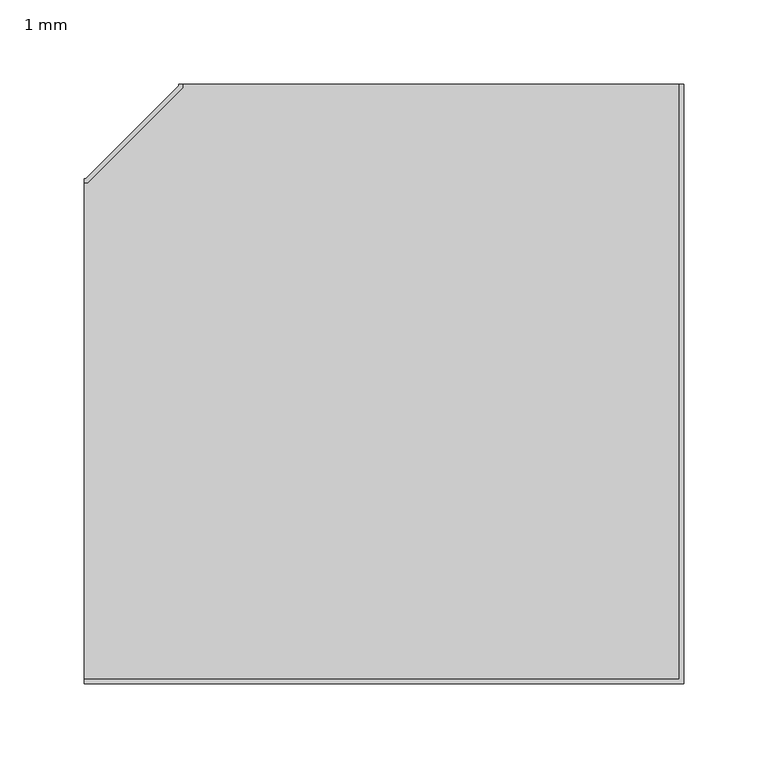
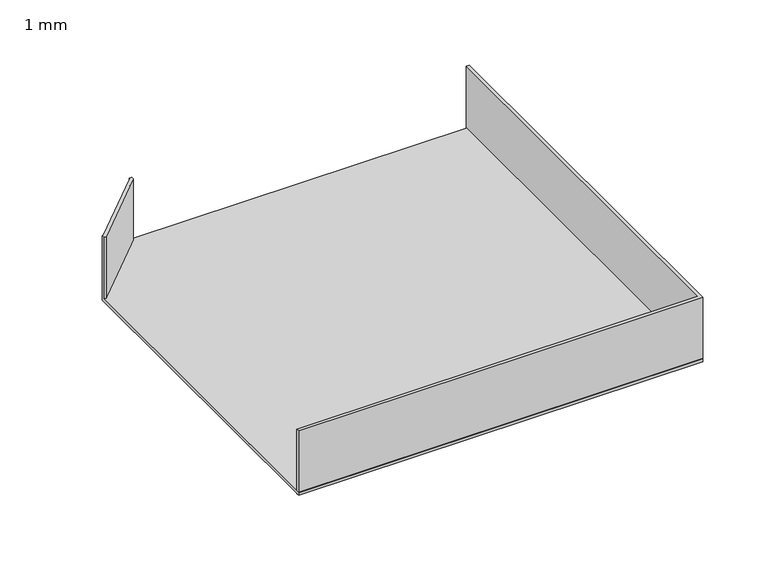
"""IFC4 building model written with IfcOpenShell, lengths in millimetres: cable carrier fitting geometry, BAKS_Kolano_koryta : 1 mm."""

from ifc_helpers import new_model, si_unit, frame, origin, place, context, project, spatial, polyline, outline, extrude, faceted_brep, source, transform, mapped, element, save


def cable_carrier_fitting_1_mm_42b71fda(model_context):
    return source(origin(), model_context, "Body", "SolidModel", [
        faceted_brep([(-206.0, 147.46, 30.0), (-206.0, 150.0, 30.0), (-206.0, 150.0, -30.0), (-206.0, -150.0, -30.0), (-206.0, -150.0, -27.46), (-206.0, 147.46, -27.46), (-203.9478976, 147.46, 30.0), (-147.46, 203.9478976, 30.0), (-147.46, 206.0, 30.0), (-150.0, 206.0, 30.0), (-150.0, 205.0, 30.0), (-205.0, 150.0, 30.0), (-205.0, 150.0, -27.46), (-205.0, 150.0, -30.0), (-150.0, 205.0, -30.0), (-150.0, 206.0, -30.0), (150.0, 206.0, -30.0), (150.0, -150.0, -30.0), (-203.9478976, 147.46, -27.46), (-150.0, 205.0, -27.46), (-147.46, 203.9478976, -27.46), (-147.46, 206.0, -27.46), (150.0, 206.0, -27.46), (150.0, -150.0, -27.46)], [[[0, 1, 2, 3, 4, 5]], [[1, 0, 6, 7, 8, 9, 10, 11]], [[2, 1, 11, 12, 13]], [[3, 2, 13, 14, 15, 16, 17]], [[6, 0, 5, 18]], [[11, 10, 19, 14, 13, 12]], [[7, 6, 18, 20]], [[9, 8, 21, 22, 16, 15]], [[10, 9, 15, 14, 19]], [[8, 7, 20, 21]], [[4, 23, 22, 21, 20, 18, 5]], [[23, 4, 3, 17]], [[22, 23, 17, 16]]]),
        extrude(outline(polyline([(-206.0, -150.0), (-206.0, -147.46), (147.46, -147.46), (147.46, 206.0), (150.0, 206.0), (150.0, -150.0), (-206.0, -150.0)])), frame((0.0, 0.0, -30.0), z_axis=(0.0, 0.0, 1.0), x_axis=(1.0, 0.0, 0.0)), (0.0, 0.0, 1.0), 60.0),
    ])


if __name__ == "__main__":
    model = new_model("IFC4")
    model_context = context("Model", 3, world=origin())
    ifc_project = project(units=[si_unit("LENGTHUNIT", "METRE", prefix="MILLI")], contexts=[model_context])
    site = spatial("IfcSite", under=ifc_project)
    building = spatial("IfcBuilding", under=site)
    placement = place(None, origin())
    cable_carrier_fitting_1_mm_shape = cable_carrier_fitting_1_mm_42b71fda(model_context)
    element("IfcCableCarrierFitting", 1, ObjectType="BAKS_Kolano_koryta : 1 mm", at=placement, inside=building, context=model_context, shape_type="MappedRepresentation", body=[
        mapped(cable_carrier_fitting_1_mm_shape, transform((0.0, 0.0, 0.0), x_axis=(1.0, 0.0, 0.0), y_axis=(0.0, 1.0, 0.0), z_axis=(0.0, 0.0, 1.0))),
    ])
    save(model, "model.ifc")
